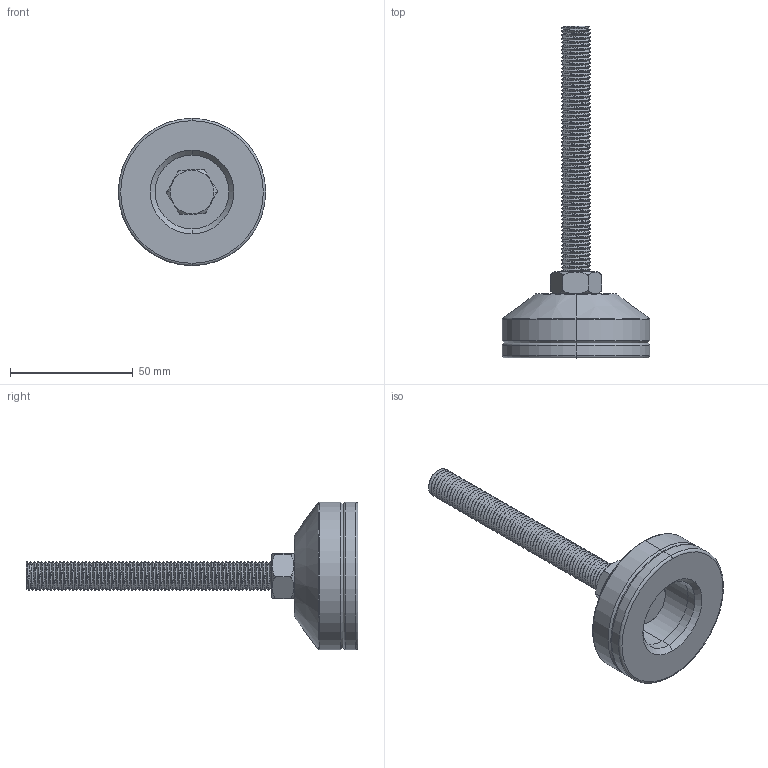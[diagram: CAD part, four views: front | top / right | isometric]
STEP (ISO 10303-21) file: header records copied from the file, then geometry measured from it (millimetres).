
FILE_DESCRIPTION (( 'STEP AP203' ), '1' );
FILE_NAME ('CE-UAF-TPU-D60-M12-100褐戚.STEP', '2016-11-05T03:57:12', ( '' ), ( '' ), 'SwSTEP 2.0', 'SolidWorks 2013', '' );
FILE_SCHEMA (( 'CONFIG_CONTROL_DESIGN' ));
Length unit declared in the file: millimetre
Products named in the file (1): CE-UAF-TPU-D60-M12-100褐戚
Bounding box: 60 x 135 x 60 mm (x, y, z)
Surface area: 22579.7 mm2 (no closed solid volume)
Topology: 0 solids, 5 shells, 198 faces, 614 edges, 411 vertices
Faces by surface type: cylinder 159, plane 13, bspline 12, torus 8, cone 6
Entity records: 13904 total; most frequent: CARTESIAN_POINT 9363, ORIENTED_EDGE 1160, DIRECTION 715, EDGE_CURVE 614, VERTEX_POINT 411, AXIS2_PLACEMENT_3D 259, EDGE_LOOP 203, ADVANCED_FACE 198
